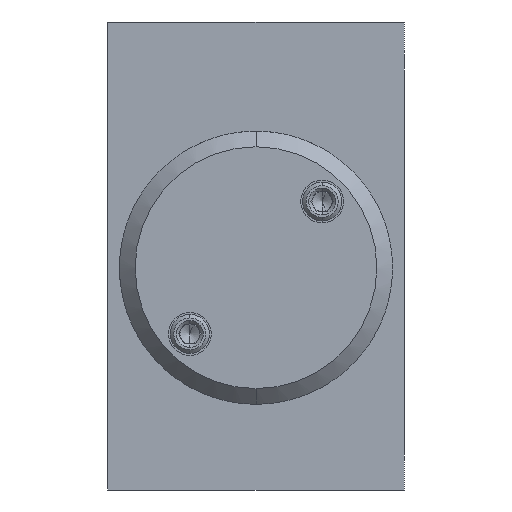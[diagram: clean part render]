
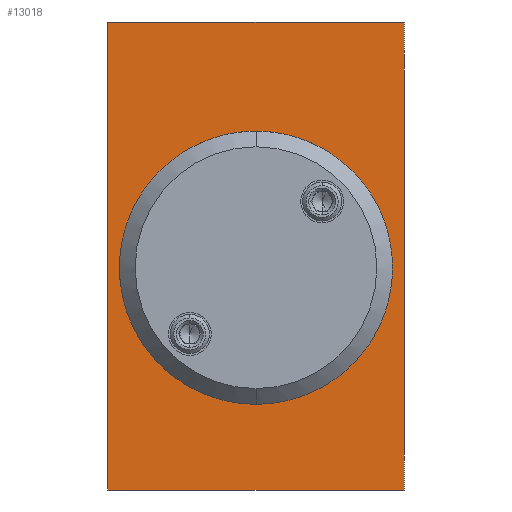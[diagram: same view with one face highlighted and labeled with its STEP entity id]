
A CAD part, left-side view. The second image highlights one B-rep face of the part: STEP entity #13018.
In plain terms, the highlighted planar face has unit normal (-1, 0, 0).
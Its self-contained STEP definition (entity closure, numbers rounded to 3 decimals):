
#2110 = AXIS2_PLACEMENT_3D ( 'NONE', #23752, #54885, #28176 ) ;
#2889 = EDGE_CURVE ( 'NONE', #37414, #33549, #57296, .T. ) ;
#3122 = CARTESIAN_POINT ( 'NONE',  ( 0., 0., 14.5 ) ) ;
#3955 = CARTESIAN_POINT ( 'NONE',  ( 0., 0., -17.5 ) ) ;
#8914 = VERTEX_POINT ( 'NONE', #3122 ) ;
#9580 = EDGE_CURVE ( 'NONE', #8914, #42431, #17376, .T. ) ;
#10125 = CARTESIAN_POINT ( 'NONE',  ( 0., -19., 30. ) ) ;
#10423 = LINE ( 'NONE', #22881, #10906 ) ;
#10424 = DIRECTION ( 'NONE',  ( 0., 1., 0. ) ) ;
#10836 = CARTESIAN_POINT ( 'NONE',  ( 0., 19., -30. ) ) ;
#10906 = VECTOR ( 'NONE', #56124, 1000. ) ;
#12689 = ORIENTED_EDGE ( 'NONE', *, *, #2889, .F. ) ;
#13018 = ADVANCED_FACE ( 'NONE', ( #20435, #15487 ), #41479, .T. ) ;
#15044 = EDGE_CURVE ( 'NONE', #45301, #24325, #10423, .T. ) ;
#15221 = DIRECTION ( 'NONE',  ( 0., 0., 1. ) ) ;
#15487 = FACE_OUTER_BOUND ( 'NONE', #44782, .T. ) ;
#16798 = VECTOR ( 'NONE', #26377, 1000. ) ;
#17376 = CIRCLE ( 'NONE', #56413, 16. ) ;
#17606 = CARTESIAN_POINT ( 'NONE',  ( 0., -19., 30. ) ) ;
#18703 = LINE ( 'NONE', #17606, #16798 ) ;
#20435 = FACE_BOUND ( 'NONE', #53023, .T. ) ;
#22881 = CARTESIAN_POINT ( 'NONE',  ( 0., 19., 30. ) ) ;
#23452 = CARTESIAN_POINT ( 'NONE',  ( 0., -19., -30. ) ) ;
#23544 = DIRECTION ( 'NONE',  ( -1., 0., 0. ) ) ;
#23752 = CARTESIAN_POINT ( 'NONE',  ( 0., 0., -1.5 ) ) ;
#24325 = VERTEX_POINT ( 'NONE', #50528 ) ;
#25051 = ORIENTED_EDGE ( 'NONE', *, *, #9580, .F. ) ;
#26251 = EDGE_CURVE ( 'NONE', #33549, #45301, #34425, .T. ) ;
#26377 = DIRECTION ( 'NONE',  ( 0., -1., 0. ) ) ;
#28176 = DIRECTION ( 'NONE',  ( 0., 0., 1. ) ) ;
#28834 = EDGE_CURVE ( 'NONE', #42431, #8914, #39300, .T. ) ;
#31552 = EDGE_CURVE ( 'NONE', #24325, #37414, #18703, .T. ) ;
#32539 = CARTESIAN_POINT ( 'NONE',  ( 0., 19., -30. ) ) ;
#33549 = VERTEX_POINT ( 'NONE', #38505 ) ;
#34425 = LINE ( 'NONE', #23452, #53148 ) ;
#37414 = VERTEX_POINT ( 'NONE', #42527 ) ;
#38505 = CARTESIAN_POINT ( 'NONE',  ( 0., -19., -30. ) ) ;
#39300 = CIRCLE ( 'NONE', #2110, 16. ) ;
#40962 = DIRECTION ( 'NONE',  ( 0., 0., -1. ) ) ;
#41479 = PLANE ( 'NONE',  #45084 ) ;
#41661 = DIRECTION ( 'NONE',  ( -1., 0., 0. ) ) ;
#42431 = VERTEX_POINT ( 'NONE', #3955 ) ;
#42527 = CARTESIAN_POINT ( 'NONE',  ( 0., -19., 30. ) ) ;
#44782 = EDGE_LOOP ( 'NONE', ( #47655, #12689, #47762, #47710 ) ) ;
#45084 = AXIS2_PLACEMENT_3D ( 'NONE', #10836, #41661, #15221 ) ;
#45301 = VERTEX_POINT ( 'NONE', #32539 ) ;
#47550 = ORIENTED_EDGE ( 'NONE', *, *, #28834, .F. ) ;
#47655 = ORIENTED_EDGE ( 'NONE', *, *, #26251, .F. ) ;
#47710 = ORIENTED_EDGE ( 'NONE', *, *, #15044, .F. ) ;
#47762 = ORIENTED_EDGE ( 'NONE', *, *, #31552, .F. ) ;
#50071 = CARTESIAN_POINT ( 'NONE',  ( 0., 0., -1.5 ) ) ;
#50528 = CARTESIAN_POINT ( 'NONE',  ( 0., 19., 30. ) ) ;
#53023 = EDGE_LOOP ( 'NONE', ( #25051, #47550 ) ) ;
#53148 = VECTOR ( 'NONE', #10424, 1000. ) ;
#54661 = DIRECTION ( 'NONE',  ( 0., 0., 1. ) ) ;
#54885 = DIRECTION ( 'NONE',  ( -1., 0., 0. ) ) ;
#56124 = DIRECTION ( 'NONE',  ( 0., 0., 1. ) ) ;
#56413 = AXIS2_PLACEMENT_3D ( 'NONE', #50071, #23544, #54661 ) ;
#57239 = VECTOR ( 'NONE', #40962, 1000. ) ;
#57296 = LINE ( 'NONE', #10125, #57239 ) ;
